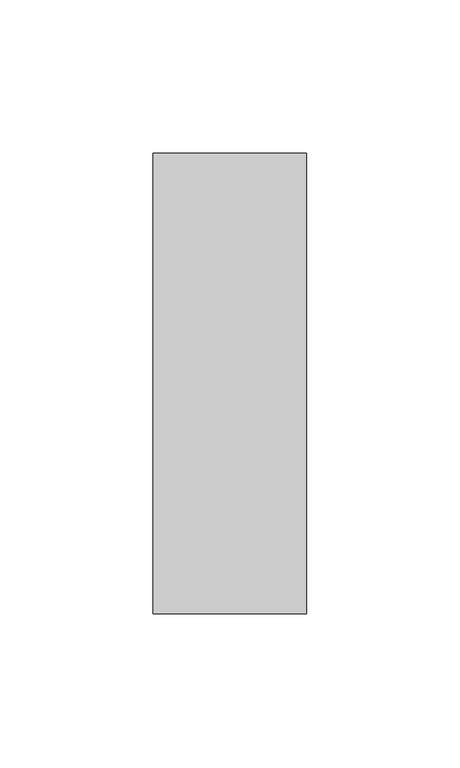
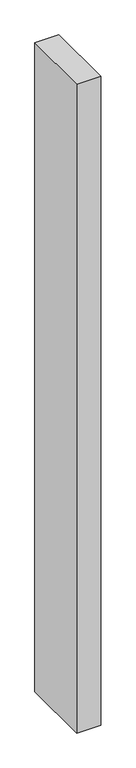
"""IFC4 building model written with IfcOpenShell, lengths in millimetres: member geometry, 矩形竖梃 : 教学楼 – 矩形竖梃 – 50x150mm."""

from ifc_helpers import new_model, si_unit, frame, origin, place, context, project, spatial, polyline, outline, extrude, source, transform, mapped, element, save


def member_1f4d75dd(model_context):
    return source(origin(), model_context, "Body", "SweptSolid", [
        extrude(outline(polyline([(25.0, 75.0), (25.0, -75.0), (-25.0, -75.0), (-25.0, 75.0), (25.0, 75.0)])), frame((0.0, 0.0, -1425.0), z_axis=(0.0, 0.0, 1.0), x_axis=(1.0, 0.0, 0.0)), (0.0, 0.0, 1.0), 1425.0),
    ])


if __name__ == "__main__":
    model = new_model("IFC4")
    model_context = context("Model", 3, world=origin())
    ifc_project = project(units=[si_unit("LENGTHUNIT", "METRE", prefix="MILLI")], contexts=[model_context])
    site = spatial("IfcSite", under=ifc_project)
    building = spatial("IfcBuilding", under=site)
    placement = place(None, origin())
    member_shape = member_1f4d75dd(model_context)
    element("IfcMember", 1, ObjectType="矩形竖梃 : 教学楼 – 矩形竖梃 – 50x150mm", at=placement, inside=building, context=model_context, shape_type="MappedRepresentation", body=[
        mapped(member_shape, transform((0.0, 0.0, 0.0), x_axis=(1.0, 0.0, 0.0), y_axis=(0.0, 1.0, 0.0), z_axis=(0.0, 0.0, 1.0))),
    ])
    save(model, "model.ifc")
